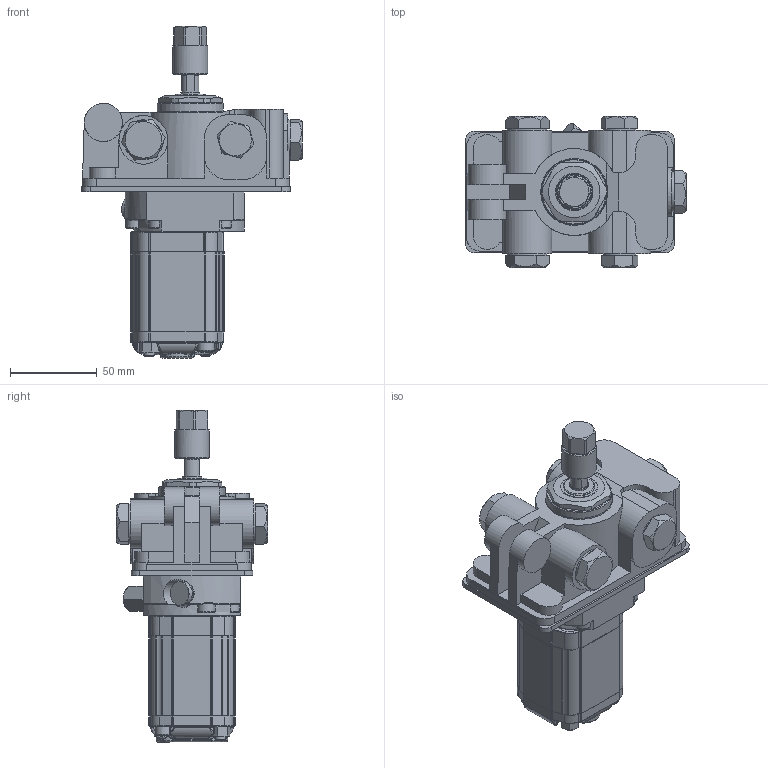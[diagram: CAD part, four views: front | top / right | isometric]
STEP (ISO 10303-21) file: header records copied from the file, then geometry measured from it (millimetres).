
FILE_DESCRIPTION(/* description */ ('Unknown'),/* implementation_level */ '2;1');
FILE_NAME(/* name */ 'ZESxxx',/* time_stamp */ '2024-12-04T16:16:04+01:00',/* author */ ('Unknown'),/* organization */ ('Unknown'),/* preprocessor_version */ 'ST-DEVELOPER v19.4',/* originating_system */ 'Solid Edge',/* authorisation */ 'Unknown');
FILE_SCHEMA (('AUTOMOTIVE_DESIGN {1 0 10303 214 3 1 1}'));
Length unit declared in the file: millimetre
Products named in the file (1): ZESxxx
Bounding box: 127 x 87 x 191 mm (x, y, z)
Volume: 590619.7 mm3; surface area: 66892.6 mm2
Topology: 1 solids, 1 shells, 711 faces, 1810 edges, 1097 vertices
Faces by surface type: plane 300, cylinder 217, torus 77, cone 55, bspline 54, sphere 8
Full cylindrical faces by diameter (mm): 6 x4, 10 x3, 11 x1, 14 x1, 18 x1, 19 x2, 20 x1, 22 x2, 23 x3, 28 x2, 37.8 x1, 38 x1, 38.5 x1
Entity records: 28597 total; most frequent: CARTESIAN_POINT 7165, DIRECTION 3495, ORIENTED_EDGE 3410, EDGE_CURVE 1705, AXIS2_PLACEMENT_3D 1405, VERTEX_POINT 1061, EDGE_LOOP 790, FACE_BOUND 790
